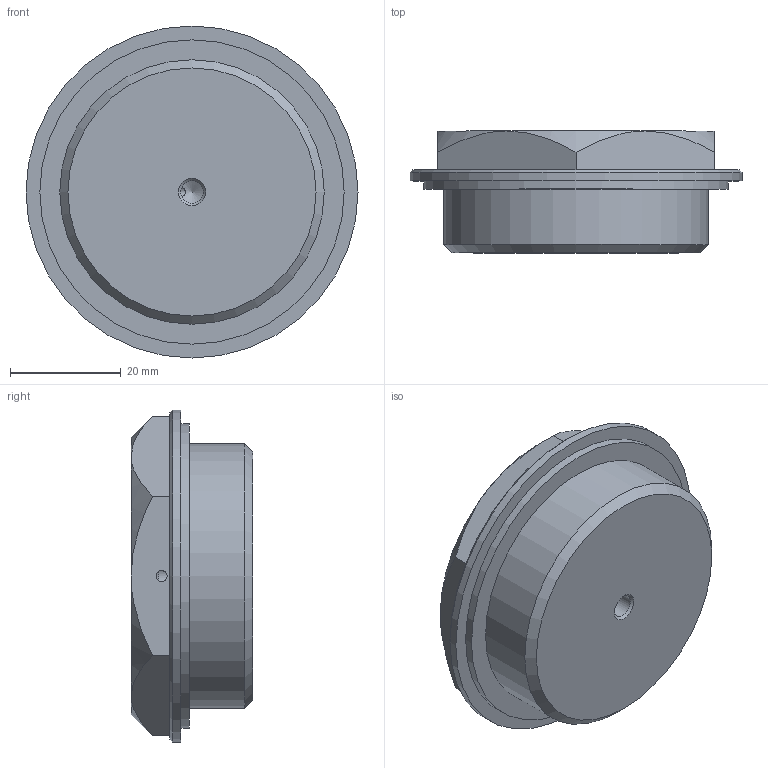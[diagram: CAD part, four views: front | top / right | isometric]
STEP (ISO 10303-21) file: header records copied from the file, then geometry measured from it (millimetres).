
FILE_DESCRIPTION( ( 'STEP AP203' ), '1' );
FILE_NAME( 'C:/Temp/Ganter_Step_05_03_2020/data/3_5/gn742/gn742_2/Threaded plug GN 742-60-G11_2-ASS-2.stp', '2020-03-12T13:39:30', ( 'License CC BY-ND 4.0' ), ( 'CADENAS' ), ' ', 'PARTsolutions', ' ' );
FILE_SCHEMA( ( 'CONFIG_CONTROL_DESIGN' ) );
Length unit declared in the file: millimetre
Products named in the file (1): _Threaded plug GN 742-60-G11/2-ASS-2
Bounding box: 60 x 22 x 60 mm (x, y, z)
Volume: 44280.6 mm3; surface area: 9259 mm2
Topology: 1 solids, 1 shells, 53 faces, 131 edges, 84 vertices
Faces by surface type: plane 38, cone 10, cylinder 5
Full cylindrical faces by diameter (mm): 2 x1, 4.134 x1, 47.803 x1, 55 x1, 60 x1
Entity records: 1637 total; most frequent: CARTESIAN_POINT 397, ORIENTED_EDGE 238, DIRECTION 231, EDGE_CURVE 119, LINE 87, VECTOR 87, VERTEX_POINT 82, AXIS2_PLACEMENT_3D 72
